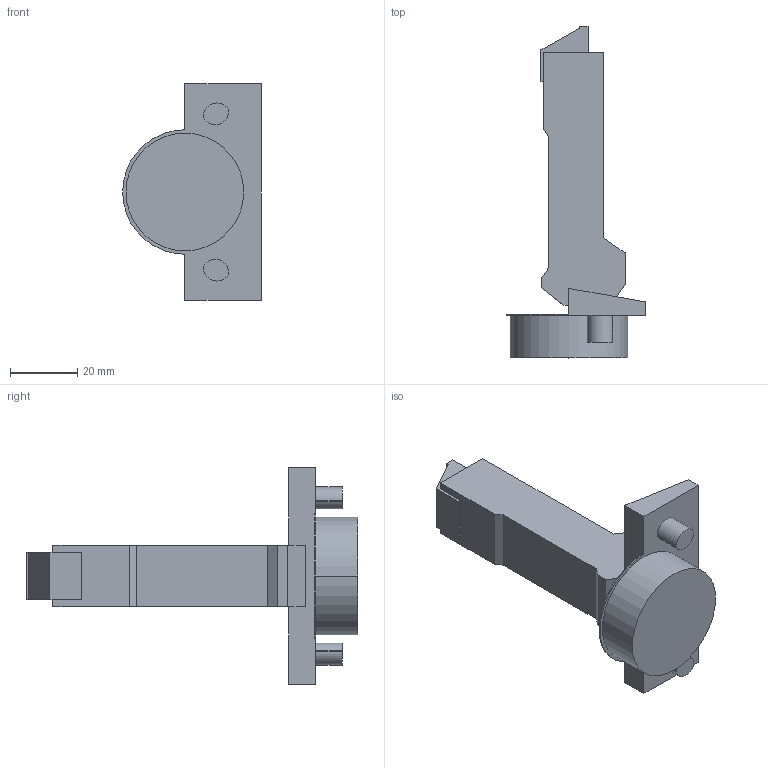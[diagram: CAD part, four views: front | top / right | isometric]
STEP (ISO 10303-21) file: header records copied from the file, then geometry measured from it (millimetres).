
FILE_DESCRIPTION (( 'STEP AP214' ), '1' );
FILE_NAME ('Scharnier TS Impresso 110° MB_BB, K95.step', '2018-09-12T09:11:04', ( '' ), ( '' ), 'SwSTEP 2.0', 'SolidWorks 2017', '' );
FILE_SCHEMA (( 'AUTOMOTIVE_DESIGN' ));
Length unit declared in the file: millimetre
Products named in the file (1): Scharnier TS Impresso 110° MB_BB, K95
Bounding box: 41.25 x 98.7 x 64.5 mm (x, y, z)
Volume: 46607.8 mm3; surface area: 12697.3 mm2
Topology: 1 solids, 1 shells, 53 faces, 135 edges, 90 vertices
Faces by surface type: plane 38, cylinder 15
Entity records: 1633 total; most frequent: CARTESIAN_POINT 279, DIRECTION 273, ORIENTED_EDGE 270, EDGE_CURVE 135, LINE 105, VECTOR 105, VERTEX_POINT 90, AXIS2_PLACEMENT_3D 84
